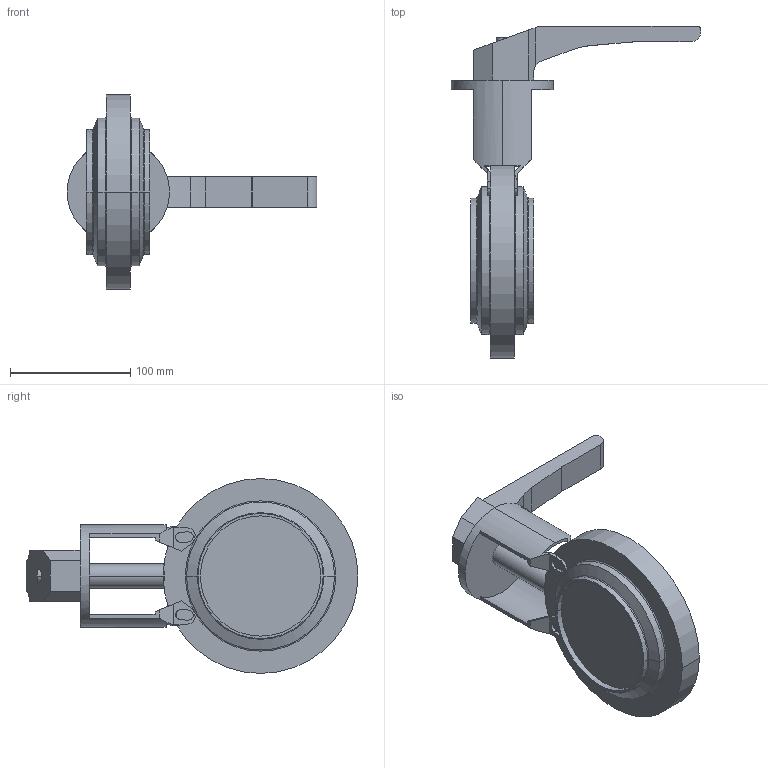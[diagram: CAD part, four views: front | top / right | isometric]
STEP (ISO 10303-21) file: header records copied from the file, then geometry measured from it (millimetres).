
FILE_DESCRIPTION(('Creo Elements/Direct Modeling STEP Export'),'2;1');
FILE_NAME('SV1-100-HL-1S-2S.stp','2019-02-20T10:16:16',(''),(''),'PTC Creo Elements/Direct Modeling STEP processor for AP214 (Solid Model)','PTC Creo Elements/Direct Modeling 19.0B 21-Mar-2015 (C) Parametric Technology GmbH','');
FILE_SCHEMA(('AUTOMOTIVE_DESIGN { 1 0 10303 214 1 1 1 1 }'));
Length unit declared in the file: millimetre
Products named in the file (5): SV1-100-12S; Handhebel-SV-40-100.1; SV_Laterne_HL_65_100; SV1-100-H-12S-vereint
Assembly tree (4 placements, depth 3):
  SV1-100-H-12S-vereint
    SV_Laterne_HL_65_100
      SV_Laterne_HL_65_100
      Handhebel-SV-40-100.1
    SV1-100-12S
Bounding box: 207.5 x 276 x 162 mm (x, y, z)
Volume: 882729.3 mm3; surface area: 119762.5 mm2
Topology: 3 solids, 3 shells, 141 faces, 367 edges, 238 vertices
Faces by surface type: plane 88, cylinder 41, torus 8, cone 4
Entity records: 4618 total; most frequent: CARTESIAN_POINT 1091, ORIENTED_EDGE 734, DIRECTION 695, EDGE_CURVE 367, VERTEX_POINT 238, AXIS2_PLACEMENT_3D 235, VECTOR 225, LINE 225
